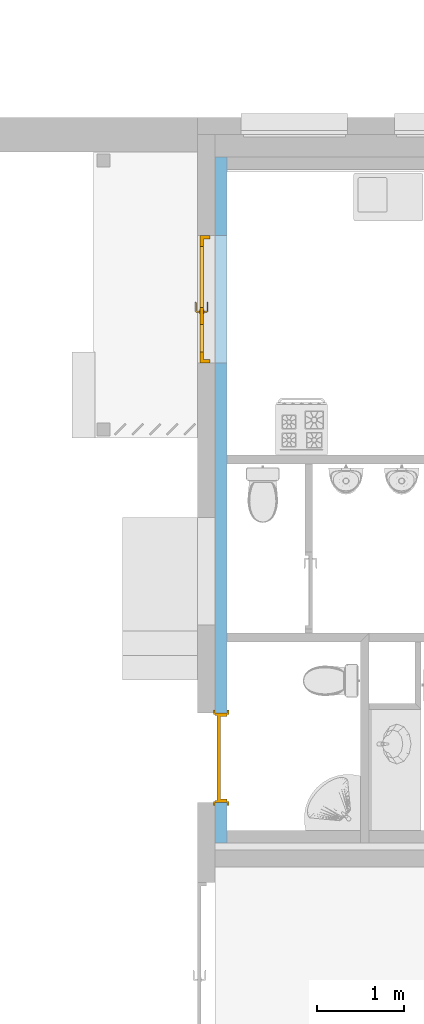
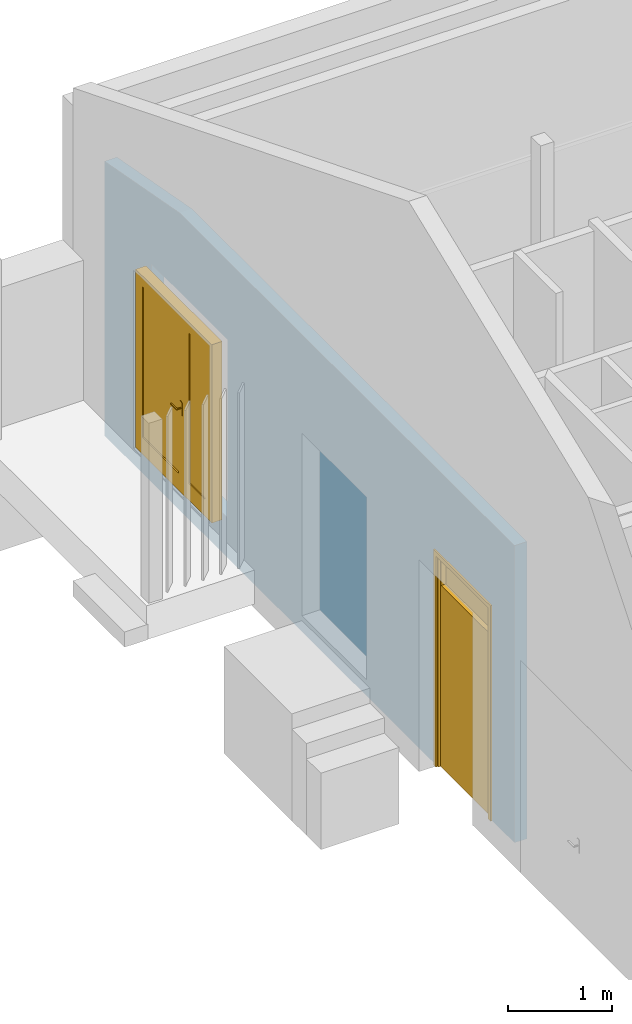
# One storey, part 18 of 34: 2 doors, 2 openings, plus 1 element that does not belong to this part.
"""IFC2X3 building model written with IfcOpenShell, lengths in metres."""

from ifc_helpers import new_model, entity, si_unit, converted_unit, derived_unit, money_unit, direction, frame, origin_with_axes, origin_2d_with_axis, place, context, subcontext, project, spatial, polyline, rectangle, outline, extrude, clip, bounded_halfspace, open_shell, faceted_brep, surface_model, material, layer, layer_set, layer_usage, type_object, element, fill, save


model = new_model("IFC2X3")

# Units and contexts
model_context = context("Model", 3, precision=1e-05, world=origin_with_axes(), true_north=direction((0.0, 1.0)))
body_context = subcontext(model_context, "Body", "Model", "MODEL_VIEW")
ifc_project = project(units=[si_unit("LENGTHUNIT", "METRE"), si_unit("AREAUNIT", "SQUARE_METRE"), si_unit("VOLUMEUNIT", "CUBIC_METRE"), converted_unit("PLANEANGLEUNIT", "DEGREE", entity("IfcPlaneAngleMeasure", 0.0174532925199), si_unit("PLANEANGLEUNIT", "RADIAN"), dimensions=[0, 0, 0, 0, 0, 0, 0]), money_unit("CHF"), converted_unit("TIMEUNIT", "Year", entity("IfcTimeMeasure", 31556926.0), si_unit("TIMEUNIT", "SECOND"), dimensions=[0, 0, 1, 0, 0, 0, 0]), si_unit("MASSUNIT", "GRAM", prefix="KILO"), si_unit("THERMODYNAMICTEMPERATUREUNIT", "DEGREE_CELSIUS"), si_unit("LUMINOUSINTENSITYUNIT", "LUMEN"), si_unit("ENERGYUNIT", "JOULE", prefix="MEGA"), derived_unit("THERMALCONDUCTANCEUNIT", [(si_unit("POWERUNIT", "WATT"), 1), (si_unit("LENGTHUNIT", "METRE"), -1), (si_unit("THERMODYNAMICTEMPERATUREUNIT", "KELVIN"), -1)]), derived_unit("SPECIFICHEATCAPACITYUNIT", [(si_unit("ENERGYUNIT", "JOULE"), 1), (si_unit("MASSUNIT", "GRAM", prefix="KILO"), -1), (si_unit("THERMODYNAMICTEMPERATUREUNIT", "KELVIN"), -1)]), derived_unit("MASSDENSITYUNIT", [(si_unit("MASSUNIT", "GRAM", prefix="KILO"), 1), (si_unit("VOLUMEUNIT", "CUBIC_METRE"), -1)])], contexts=[model_context])

# Site, building, storey
site_placement = place(None, origin_with_axes())
site = spatial("IfcSite", under=ifc_project, at=site_placement, Name="Site", CompositionType="ELEMENT")
building_placement = place(site_placement, origin_with_axes())
building = spatial("IfcBuilding", under=site, at=building_placement, Name="Bâtiment", CompositionType="ELEMENT")
storey_placement = place(building_placement, origin_with_axes())
storey = spatial("IfcBuildingStorey", under=building, at=storey_placement, Name="RDC", CompositionType="ELEMENT", Elevation=-5.32907e-15)

# Wall, openings, doors
ifc_material_1 = material(Name="Isolation laine de pierre 378182646")
ifc_layer_1 = layer(ifc_material_1, 0.12, ventilated="UNKNOWN")
ifc_material_2 = material(Name="Plâtre lissé 291446788")
ifc_layer_2 = layer(ifc_material_2, 0.02, ventilated="UNKNOWN")
ifc_layer_set = layer_set([ifc_layer_1, ifc_layer_2], Name="DOUBLAGE ISO + BA13 14 CM")
ifc_layer_usage = layer_usage(ifc_layer_set, "AXIS2", "NEGATIVE", 0.0)
wall_type = type_object("IfcWallType", Name="DOUBLAGE ISO + BA13 14 CM 140", PredefinedType="NOTDEFINED")
wall_placement = place(storey_placement, frame((1667.61729001, 182.33004191, 0.0), z_axis=(0.0, 0.0, 1.0), x_axis=(0.0, 1.0, 0.0)))
wall = element("IfcWallStandardCase", 1, at=wall_placement, inside=storey, type_object=wall_type, material=ifc_layer_usage, Name="Mur-006", context=body_context, shape_type="Clipping", body=[
    clip(clip(clip(clip(clip(extrude(outline(polyline([(0.0, -0.14), (7.91, -0.14), (7.91, 0.0), (0.0, 0.0), (0.0, -0.14)])), origin_with_axes(), (0.0, 0.0, 1.0), 3.50000008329), bounded_halfspace(frame((0.844439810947, 0.0, 4.54416553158), z_axis=(-0.182701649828, 0.0, -0.983168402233), x_axis=(0.0, 1.0, 0.0)), True, origin_with_axes(), polyline([(6.2499999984, -0.15), (8.8700099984, -0.15), (8.8700099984, 0.01), (6.2499999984, 0.01), (6.2499999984, -0.15)]))), bounded_halfspace(frame((2.37261899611, 0.0, 5.27193227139), z_axis=(-0.410400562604, 0.0, -0.911905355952), x_axis=(0.0, 1.0, 0.0)), True, origin_with_axes(), polyline([(0.49854319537, -0.15), (6.2499999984, -0.15), (6.2499999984, 0.01), (0.49854319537, 0.01), (0.49854319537, -0.15)]))), bounded_halfspace(frame((2.56748715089, 0.0, 5.7049270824), z_axis=(-0.410400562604, 0.0, -0.911905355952), x_axis=(0.0, 1.0, 0.0)), True, origin_with_axes(), polyline([(1.133479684, -0.15), (8.8700099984, -0.15), (8.8700099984, 0.01), (1.133479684, 0.01), (1.133479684, -0.15)]))), bounded_halfspace(frame((-2.18566630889, 0.0, 4.85652553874), z_axis=(0.410400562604, 0.0, -0.911905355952), x_axis=(0.0, 1.0, 0.0)), True, origin_with_axes(), polyline([(-5.45001, -0.15), (1.133479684, -0.15), (1.133479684, 0.01), (-5.45001, 0.01), (-5.45001, -0.15)]))), bounded_halfspace(frame((-2.20468110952, 0.0, 4.89877620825), z_axis=(0.410400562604, 0.0, -0.911905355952), x_axis=(0.0, 1.0, 0.0)), True, origin_with_axes(), polyline([(-5.14001, -0.15), (0.49854319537, -0.15), (0.49854319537, 0.01), (-5.14001, 0.01), (-5.14001, -0.15)]))),
])
opening_1_placement = place(wall_placement, frame((0.980307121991, 0.0, 0.0), z_axis=(0.0, 0.0, 1.0), x_axis=(1.0, 0.0, 0.0)))
opening_1 = element("IfcOpeningElement", 2, at=opening_1_placement, cuts=wall, Name="Por-004", context=body_context, shape_type="SweptSolid", body=[
    extrude(rectangle(XDim=1.03, YDim=2.5, at=origin_2d_with_axis()), frame((0.0, 0.14, 1.25), z_axis=(0.0, -1.0, 0.0), x_axis=(1.0, 0.0, 0.0)), (0.0, 0.0, 1.0), 0.42),
    extrude(rectangle(XDim=1.104, YDim=2.537, at=origin_2d_with_axis()), frame((0.0, 0.0, 1.2685), z_axis=(0.0, -1.0, 0.0), x_axis=(1.0, 0.0, 0.0)), (0.0, 0.0, -1.0), 0.14),
    extrude(rectangle(XDim=1.104, YDim=2.537, at=origin_2d_with_axis()), frame((0.0, -0.14, 1.2685), z_axis=(0.0, 1.0, 0.0), x_axis=(1.0, 0.0, 0.0)), (0.0, 0.0, -1.0), 0.14),
])
opening_2_placement = place(wall_placement, frame((6.27102484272, 0.0, 0.47), z_axis=(0.0, 0.0, 1.0), x_axis=(1.0, 0.0, 0.0)))
opening_2 = element("IfcOpeningElement", 3, at=opening_2_placement, cuts=wall, Name="Por-006", context=body_context, shape_type="SweptSolid", body=[
    extrude(rectangle(XDim=1.47, YDim=2.1, at=origin_2d_with_axis()), frame((0.0, 0.06, 1.05), z_axis=(0.0, 1.0, 0.0), x_axis=(1.0, 0.0, 0.0)), (0.0, 0.0, -1.0), 0.34),
    extrude(rectangle(XDim=1.47, YDim=2.1, at=origin_2d_with_axis()), frame((0.0, 0.06, 1.05), z_axis=(0.0, -1.0, 0.0), x_axis=(1.0, 0.0, 0.0)), (0.0, 0.0, -1.0), 0.2),
])
door_style_1 = type_object("IfcDoorStyle", Name="Porte avec imposte 25", ConstructionType="NOTDEFINED", OperationType="SINGLE_SWING_RIGHT", ParameterTakesPrecedence=False, Sizeable=False)
door_1_placement = place(opening_1_placement, frame((-0.515, 0.0, 0.0), z_axis=(0.0, 0.0, 1.0), x_axis=(1.0, 0.0, 0.0)))
door_1 = element("IfcDoor", 4, at=door_1_placement, inside=storey, type_object=door_style_1, Name="Por-004", OverallHeight=2.5, OverallWidth=1.03, context=body_context, shape_type="SurfaceModel", body=[
    faceted_brep([(0.0, -0.025, 0.0), (0.0, 0.0, 0.0), (0.025, 0.0, 0.0), (0.025, -0.025, 0.0), (0.0, -0.025, 2.5), (0.0, 0.0, 2.5), (0.025, 0.0, 2.475), (0.025, -0.025, 2.475)], [[[0, 1, 2, 3]], [[4, 5, 1, 0]], [[1, 5, 6, 2]], [[3, 2, 6, 7]], [[0, 3, 7, 4]], [[7, 6, 5, 4]]]),
    faceted_brep([(1.03, -0.025, 2.5), (1.03, 0.0, 2.5), (1.005, 0.0, 2.475), (1.005, -0.025, 2.475), (1.03, -0.025, 0.0), (1.03, 0.0, 0.0), (1.005, 0.0, 0.0), (1.005, -0.025, 0.0)], [[[0, 1, 2, 3]], [[4, 5, 1, 0]], [[1, 5, 6, 2]], [[3, 2, 6, 7]], [[0, 3, 7, 4]], [[7, 6, 5, 4]]]),
    faceted_brep([(0.025, -0.025, 2.475), (0.025, 0.0, 2.475), (1.005, 0.0, 2.475), (1.005, -0.025, 2.475), (0.0, -0.025, 2.5), (0.0, 0.0, 2.5), (1.03, 0.0, 2.5), (1.03, -0.025, 2.5)], [[[0, 1, 2, 3]], [[4, 5, 1, 0]], [[1, 5, 6, 2]], [[3, 2, 6, 7]], [[0, 3, 7, 4]], [[7, 6, 5, 4]]]),
    faceted_brep([(-0.037, 0.019, 0.0), (0.013, 0.019, 0.0), (0.013, 0.0, 0.0), (-0.037, 0.0, 0.0), (-0.037, 0.019, 2.537), (0.013, 0.019, 2.487), (0.013, 0.0, 2.487), (-0.037, 0.0, 2.537)], [[[0, 1, 2, 3]], [[0, 4, 5, 1]], [[1, 5, 6, 2]], [[3, 2, 6, 7]], [[4, 0, 3, 7]], [[5, 4, 7, 6]]]),
    faceted_brep([(1.067, 0.019, 2.537), (1.017, 0.019, 2.487), (1.017, 0.0, 2.487), (1.067, 0.0, 2.537), (1.067, 0.019, 0.0), (1.017, 0.019, 0.0), (1.017, 0.0, 0.0), (1.067, 0.0, 0.0)], [[[0, 1, 2, 3]], [[0, 4, 5, 1]], [[1, 5, 6, 2]], [[3, 2, 6, 7]], [[4, 0, 3, 7]], [[5, 4, 7, 6]]]),
    faceted_brep([(-0.037, 0.019, 2.537), (0.013, 0.019, 2.487), (0.013, 0.0, 2.487), (-0.037, 0.0, 2.537), (1.067, 0.019, 2.537), (1.017, 0.019, 2.487), (1.017, 0.0, 2.487), (1.067, 0.0, 2.537)], [[[0, 1, 2, 3]], [[0, 4, 5, 1]], [[1, 5, 6, 2]], [[3, 2, 6, 7]], [[4, 0, 3, 7]], [[5, 4, 7, 6]]]),
    faceted_brep([(-0.037, -0.159, 0.0), (-0.037, -0.14, 0.0), (0.013, -0.14, 0.0), (0.013, -0.159, 0.0), (-0.037, -0.159, 2.537), (-0.037, -0.14, 2.537), (0.013, -0.14, 2.487), (0.013, -0.159, 2.487)], [[[0, 1, 2, 3]], [[4, 5, 1, 0]], [[1, 5, 6, 2]], [[3, 2, 6, 7]], [[0, 3, 7, 4]], [[7, 6, 5, 4]]]),
    faceted_brep([(1.067, -0.159, 2.537), (1.067, -0.14, 2.537), (1.017, -0.14, 2.487), (1.017, -0.159, 2.487), (1.067, -0.159, 0.0), (1.067, -0.14, 0.0), (1.017, -0.14, 0.0), (1.017, -0.159, 0.0)], [[[0, 1, 2, 3]], [[4, 5, 1, 0]], [[1, 5, 6, 2]], [[3, 2, 6, 7]], [[0, 3, 7, 4]], [[7, 6, 5, 4]]]),
    faceted_brep([(-0.037, -0.159, 2.537), (-0.037, -0.14, 2.537), (0.013, -0.14, 2.487), (0.013, -0.159, 2.487), (1.067, -0.159, 2.537), (1.067, -0.14, 2.537), (1.017, -0.14, 2.487), (1.017, -0.159, 2.487)], [[[0, 1, 2, 3]], [[4, 5, 1, 0]], [[1, 5, 6, 2]], [[3, 2, 6, 7]], [[0, 3, 7, 4]], [[7, 6, 5, 4]]]),
    faceted_brep([(0.04, -0.065, 2.112), (0.04, -0.025, 2.112), (0.04, -0.025, 2.14), (0.04, -0.14, 2.14), (0.04, -0.14, 2.1), (0.04, -0.14, 0.0), (0.04, -0.065, 0.0), (0.028, -0.065, 2.112), (0.028, -0.025, 2.112), (0.028, -0.025, 0.0), (0.0, -0.025, 0.0), (0.0, -0.025, 2.46), (0.04, -0.025, 2.46), (0.04, -0.14, 2.46), (0.0, -0.14, 2.46), (0.0, -0.14, 0.0), (0.028, -0.065, 0.0)], [[[0, 1, 2, 3, 4, 5, 6]], [[1, 0, 7, 8]], [[8, 9, 10, 11, 12, 2, 1]], [[12, 13, 3, 2]], [[3, 13, 14, 15, 5, 4]], [[16, 6, 5, 15, 10, 9]], [[0, 6, 16, 7]], [[9, 8, 7, 16]], [[10, 15, 14, 11]], [[11, 14, 13, 12]]]),
    faceted_brep([(1.002, -0.025, 2.112), (0.99, -0.025, 2.112), (0.99, -0.025, 2.14), (0.99, -0.025, 2.46), (1.03, -0.025, 2.46), (1.03, -0.025, 0.0), (1.002, -0.025, 0.0), (1.002, -0.065, 2.112), (0.99, -0.065, 2.112), (0.99, -0.065, 0.0), (0.99, -0.14, 0.0), (0.99, -0.14, 2.1), (0.99, -0.14, 2.14), (0.99, -0.14, 2.46), (1.03, -0.14, 2.46), (1.03, -0.14, 0.0), (1.002, -0.065, 0.0)], [[[0, 1, 2, 3, 4, 5, 6]], [[1, 0, 7, 8]], [[8, 9, 10, 11, 12, 2, 1]], [[2, 12, 13, 3]], [[3, 13, 14, 4]], [[4, 14, 15, 5]], [[16, 6, 5, 15, 10, 9]], [[0, 6, 16, 7]], [[16, 9, 8, 7]], [[12, 11, 10, 15, 14, 13]]]),
    faceted_brep([(0.0, -0.025, 2.5), (0.0, -0.025, 2.46), (0.0, -0.14, 2.46), (0.0, -0.14, 2.5), (1.03, -0.025, 2.5), (1.03, -0.025, 2.46), (0.99, -0.025, 2.46), (0.04, -0.025, 2.46), (0.04, -0.14, 2.46), (0.99, -0.14, 2.46), (1.03, -0.14, 2.46), (1.03, -0.14, 2.5)], [[[0, 1, 2, 3]], [[0, 4, 5, 6, 7, 1]], [[1, 7, 8, 2]], [[3, 2, 8, 9, 10, 11]], [[4, 0, 3, 11]], [[5, 4, 11, 10]], [[6, 5, 10, 9]], [[7, 6, 9, 8]]]),
    faceted_brep([(0.99, -0.065, 2.112), (0.99, -0.025, 2.112), (0.99, -0.025, 2.14), (0.99, -0.14, 2.14), (0.99, -0.14, 2.1), (0.99, -0.065, 2.1), (0.04, -0.065, 2.112), (0.04, -0.025, 2.112), (0.04, -0.025, 2.14), (0.04, -0.14, 2.14), (0.04, -0.14, 2.1), (0.04, -0.065, 2.1)], [[[0, 1, 2, 3, 4, 5]], [[1, 0, 6, 7]], [[1, 7, 8, 2]], [[8, 9, 3, 2]], [[10, 4, 3, 9]], [[11, 5, 4, 10]], [[0, 5, 11, 6]], [[6, 11, 10, 9, 8, 7]]]),
    faceted_brep([(1.002, -0.025, 0.0), (1.002, -0.065, 0.0), (0.028, -0.065, 0.0), (0.028, -0.025, 0.0), (1.002, -0.025, 2.112), (1.002, -0.065, 2.112), (0.028, -0.065, 2.112), (0.028, -0.025, 2.112)], [[[0, 1, 2, 3]], [[4, 5, 1, 0]], [[1, 5, 6, 2]], [[3, 2, 6, 7]], [[0, 3, 7, 4]], [[7, 6, 5, 4]]]),
    surface_model("IfcShellBasedSurfaceModel", [(0.04, -0.0765, 2.14), (0.04, -0.0765, 2.46), (0.99, -0.0765, 2.46), (0.99, -0.0765, 2.14)], [open_shell([[[0, 1, 2, 3]]])]),
    surface_model("IfcShellBasedSurfaceModel", [(0.04, -0.0885, 2.14), (0.99, -0.0885, 2.14), (0.99, -0.0885, 2.46), (0.04, -0.0885, 2.46)], [open_shell([[[0, 1, 2, 3]]])]),
])
fill(opening_1, door_1)
door_style_2 = type_object("IfcDoorStyle", Name="Porte double asymétrique 25", ConstructionType="NOTDEFINED", OperationType="DOUBLE_DOOR_SINGLE_SWING", ParameterTakesPrecedence=False, Sizeable=False)
door_2_placement = place(opening_2_placement, frame((-0.735, 0.0, 0.0), z_axis=(0.0, 0.0, 1.0), x_axis=(1.0, 0.0, 0.0)))
door_2 = element("IfcDoor", 5, at=door_2_placement, inside=storey, type_object=door_style_2, Name="Por-006", OverallHeight=2.1, OverallWidth=1.47, context=body_context, shape_type="SurfaceModel", body=[
    faceted_brep([(0.04, 0.135, 0.0), (0.04, 0.135, 2.06), (0.04, 0.06, 2.06), (0.04, 0.06, 0.0), (0.028, 0.135, 2.06), (0.028, 0.135, 0.0), (0.028, 0.175, 2.06), (0.0, 0.175, 2.06), (0.0, 0.06, 2.06), (0.0, 0.06, 0.0), (0.0, 0.175, 0.0), (0.028, 0.175, 0.0)], [[[0, 1, 2, 3]], [[4, 1, 0, 5]], [[4, 6, 7, 8, 2, 1]], [[3, 2, 8, 9]], [[5, 0, 3, 9, 10, 11]], [[6, 4, 5, 11]], [[6, 11, 10, 7]], [[10, 9, 8, 7]]]),
    faceted_brep([(1.442, 0.135, 2.06), (1.43, 0.135, 2.06), (1.43, 0.06, 2.06), (1.47, 0.06, 2.06), (1.47, 0.175, 2.06), (1.442, 0.175, 2.06), (1.442, 0.135, 0.0), (1.43, 0.135, 0.0), (1.43, 0.06, 0.0), (1.47, 0.06, 0.0), (1.47, 0.175, 0.0), (1.442, 0.175, 0.0)], [[[0, 1, 2, 3, 4, 5]], [[1, 0, 6, 7]], [[1, 7, 8, 2]], [[3, 2, 8, 9]], [[4, 3, 9, 10]], [[11, 5, 4, 10]], [[0, 5, 11, 6]], [[6, 11, 10, 9, 8, 7]]]),
    faceted_brep([(0.028, 0.175, 2.072), (0.028, 0.175, 2.06), (0.0, 0.175, 2.06), (0.0, 0.175, 2.1), (1.47, 0.175, 2.1), (1.47, 0.175, 2.06), (1.442, 0.175, 2.06), (1.442, 0.175, 2.072), (0.028, 0.135, 2.072), (0.028, 0.135, 2.06), (0.04, 0.135, 2.06), (0.04, 0.06, 2.06), (0.0, 0.06, 2.06), (0.0, 0.06, 2.1), (1.47, 0.06, 2.1), (1.47, 0.06, 2.06), (1.442, 0.135, 2.06), (1.43, 0.06, 2.06), (1.43, 0.135, 2.06), (1.442, 0.135, 2.072)], [[[0, 1, 2, 3, 4, 5, 6, 7]], [[1, 0, 8, 9]], [[9, 10, 11, 12, 2, 1]], [[2, 12, 13, 3]], [[3, 13, 14, 4]], [[4, 14, 15, 5]], [[16, 6, 5, 15, 17, 18]], [[7, 6, 16, 19]], [[0, 7, 19, 8]], [[16, 18, 10, 9, 8, 19]], [[10, 18, 17, 11]], [[17, 15, 14, 13, 12, 11]]]),
    faceted_brep([(0.567, 0.135, 0.93), (0.568903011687, 0.135, 0.920432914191), (0.568903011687, 0.13, 0.920432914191), (0.567, 0.13, 0.93), (0.567, 0.135, 1.055), (0.568903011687, 0.135, 1.06456708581), (0.57432233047, 0.135, 1.07267766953), (0.582432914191, 0.135, 1.07809698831), (0.592, 0.135, 1.08), (0.601567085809, 0.135, 1.07809698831), (0.60967766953, 0.135, 1.07267766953), (0.615096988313, 0.135, 1.06456708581), (0.617, 0.135, 1.055), (0.617, 0.135, 0.93), (0.615096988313, 0.135, 0.920432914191), (0.60967766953, 0.135, 0.91232233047), (0.601567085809, 0.135, 0.906903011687), (0.592, 0.135, 0.905), (0.582432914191, 0.135, 0.906903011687), (0.57432233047, 0.135, 0.91232233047), (0.57432233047, 0.13, 0.91232233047), (0.582432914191, 0.13, 0.906903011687), (0.592, 0.13, 0.905), (0.601567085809, 0.13, 0.906903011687), (0.60967766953, 0.13, 0.91232233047), (0.615096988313, 0.13, 0.920432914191), (0.617, 0.13, 0.93), (0.617, 0.13, 1.055), (0.615096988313, 0.13, 1.06456708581), (0.60967766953, 0.13, 1.07267766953), (0.601567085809, 0.13, 1.07809698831), (0.592, 0.13, 1.08), (0.582432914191, 0.13, 1.07809698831), (0.57432233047, 0.13, 1.07267766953), (0.568903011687, 0.13, 1.06456708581), (0.567, 0.13, 1.055)], [[[0, 1, 2, 3]], [[0, 4, 5, 6, 7, 8, 9, 10, 11, 12, 13, 14, 15, 16, 17, 18, 19, 1]], [[1, 19, 20, 2]], [[3, 2, 20, 21, 22, 23, 24, 25, 26, 27, 28, 29, 30, 31, 32, 33, 34, 35]], [[4, 0, 3, 35]], [[5, 4, 35, 34]], [[6, 5, 34, 33]], [[7, 6, 33, 32]], [[8, 7, 32, 31]], [[9, 8, 31, 30]], [[10, 9, 30, 29]], [[11, 10, 29, 28]], [[12, 11, 28, 27]], [[13, 12, 27, 26]], [[14, 13, 26, 25]], [[15, 14, 25, 24]], [[16, 15, 24, 23]], [[17, 16, 23, 22]], [[18, 17, 22, 21]], [[19, 18, 21, 20]]]),
    faceted_brep([(0.5995, 0.13, 1.005), (0.5995, 0.1, 1.005), (0.5995, 0.1, 0.995), (0.5995, 0.13, 0.995), (0.5845, 0.13, 1.005), (0.5845, 0.093, 1.005), (0.585489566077, 0.0880251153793, 1.005), (0.588307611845, 0.0838076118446, 1.005), (0.592525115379, 0.0809895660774, 1.005), (0.5975, 0.08, 1.005), (0.7045, 0.08, 1.005), (0.7045, 0.082, 1.005), (0.703510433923, 0.0869748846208, 1.005), (0.700692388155, 0.0911923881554, 1.005), (0.696474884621, 0.0940104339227, 1.005), (0.6915, 0.095, 1.005), (0.6045, 0.095, 1.005), (0.602586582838, 0.0953806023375, 1.005), (0.600964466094, 0.0964644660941, 1.005), (0.599880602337, 0.0980865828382, 1.005), (0.599880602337, 0.0980865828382, 0.995), (0.600964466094, 0.0964644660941, 0.995), (0.602586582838, 0.0953806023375, 0.995), (0.6045, 0.095, 0.995), (0.6915, 0.095, 0.995), (0.696474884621, 0.0940104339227, 0.995), (0.700692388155, 0.0911923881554, 0.995), (0.703510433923, 0.0869748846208, 0.995), (0.7045, 0.082, 0.995), (0.7045, 0.08, 0.995), (0.5975, 0.08, 0.995), (0.592525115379, 0.0809895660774, 0.995), (0.588307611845, 0.0838076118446, 0.995), (0.585489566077, 0.0880251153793, 0.995), (0.5845, 0.093, 0.995), (0.5845, 0.13, 0.995)], [[[0, 1, 2, 3]], [[0, 4, 5, 6, 7, 8, 9, 10, 11, 12, 13, 14, 15, 16, 17, 18, 19, 1]], [[1, 19, 20, 2]], [[3, 2, 20, 21, 22, 23, 24, 25, 26, 27, 28, 29, 30, 31, 32, 33, 34, 35]], [[4, 0, 3, 35]], [[5, 4, 35, 34]], [[6, 5, 34, 33]], [[7, 6, 33, 32]], [[8, 7, 32, 31]], [[9, 8, 31, 30]], [[10, 9, 30, 29]], [[11, 10, 29, 28]], [[12, 11, 28, 27]], [[13, 12, 27, 26]], [[14, 13, 26, 25]], [[15, 14, 25, 24]], [[16, 15, 24, 23]], [[17, 16, 23, 22]], [[18, 17, 22, 21]], [[19, 18, 21, 20]]]),
    faceted_brep([(0.567, 0.175, 0.93), (0.567, 0.18, 0.93), (0.568903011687, 0.18, 0.920432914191), (0.568903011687, 0.175, 0.920432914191), (0.567, 0.175, 1.055), (0.567, 0.18, 1.055), (0.568903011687, 0.18, 1.06456708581), (0.57432233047, 0.18, 1.07267766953), (0.582432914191, 0.18, 1.07809698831), (0.592, 0.18, 1.08), (0.601567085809, 0.18, 1.07809698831), (0.60967766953, 0.18, 1.07267766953), (0.615096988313, 0.18, 1.06456708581), (0.617, 0.18, 1.055), (0.617, 0.18, 0.93), (0.615096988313, 0.18, 0.920432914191), (0.60967766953, 0.18, 0.91232233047), (0.601567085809, 0.18, 0.906903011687), (0.592, 0.18, 0.905), (0.582432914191, 0.18, 0.906903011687), (0.57432233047, 0.18, 0.91232233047), (0.57432233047, 0.175, 0.91232233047), (0.582432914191, 0.175, 0.906903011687), (0.592, 0.175, 0.905), (0.601567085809, 0.175, 0.906903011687), (0.60967766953, 0.175, 0.91232233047), (0.615096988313, 0.175, 0.920432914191), (0.617, 0.175, 0.93), (0.617, 0.175, 1.055), (0.615096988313, 0.175, 1.06456708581), (0.60967766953, 0.175, 1.07267766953), (0.601567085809, 0.175, 1.07809698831), (0.592, 0.175, 1.08), (0.582432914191, 0.175, 1.07809698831), (0.57432233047, 0.175, 1.07267766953), (0.568903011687, 0.175, 1.06456708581)], [[[0, 1, 2, 3]], [[4, 5, 1, 0]], [[1, 5, 6, 7, 8, 9, 10, 11, 12, 13, 14, 15, 16, 17, 18, 19, 20, 2]], [[3, 2, 20, 21]], [[0, 3, 21, 22, 23, 24, 25, 26, 27, 28, 29, 30, 31, 32, 33, 34, 35, 4]], [[35, 6, 5, 4]], [[34, 7, 6, 35]], [[33, 8, 7, 34]], [[32, 9, 8, 33]], [[31, 10, 9, 32]], [[30, 11, 10, 31]], [[29, 12, 11, 30]], [[28, 13, 12, 29]], [[27, 14, 13, 28]], [[26, 15, 14, 27]], [[25, 16, 15, 26]], [[24, 17, 16, 25]], [[23, 18, 17, 24]], [[22, 19, 18, 23]], [[21, 20, 19, 22]]]),
    faceted_brep([(0.5995, 0.18, 1.005), (0.5995, 0.18, 0.995), (0.5995, 0.21, 0.995), (0.5995, 0.21, 1.005), (0.5845, 0.18, 1.005), (0.5845, 0.18, 0.995), (0.5845, 0.217, 0.995), (0.585489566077, 0.221974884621, 0.995), (0.588307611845, 0.226192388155, 0.995), (0.592525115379, 0.229010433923, 0.995), (0.5975, 0.23, 0.995), (0.7045, 0.23, 0.995), (0.7045, 0.228, 0.995), (0.703510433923, 0.223025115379, 0.995), (0.700692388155, 0.218807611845, 0.995), (0.696474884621, 0.215989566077, 0.995), (0.6915, 0.215, 0.995), (0.6045, 0.215, 0.995), (0.602586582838, 0.214619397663, 0.995), (0.600964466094, 0.213535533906, 0.995), (0.599880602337, 0.211913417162, 0.995), (0.599880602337, 0.211913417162, 1.005), (0.600964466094, 0.213535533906, 1.005), (0.602586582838, 0.214619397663, 1.005), (0.6045, 0.215, 1.005), (0.6915, 0.215, 1.005), (0.696474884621, 0.215989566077, 1.005), (0.700692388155, 0.218807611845, 1.005), (0.703510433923, 0.223025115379, 1.005), (0.7045, 0.228, 1.005), (0.7045, 0.23, 1.005), (0.5975, 0.23, 1.005), (0.592525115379, 0.229010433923, 1.005), (0.588307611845, 0.226192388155, 1.005), (0.585489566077, 0.221974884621, 1.005), (0.5845, 0.217, 1.005)], [[[0, 1, 2, 3]], [[4, 5, 1, 0]], [[1, 5, 6, 7, 8, 9, 10, 11, 12, 13, 14, 15, 16, 17, 18, 19, 20, 2]], [[3, 2, 20, 21]], [[0, 3, 21, 22, 23, 24, 25, 26, 27, 28, 29, 30, 31, 32, 33, 34, 35, 4]], [[35, 6, 5, 4]], [[34, 7, 6, 35]], [[33, 8, 7, 34]], [[32, 9, 8, 33]], [[31, 10, 9, 32]], [[30, 11, 10, 31]], [[29, 12, 11, 30]], [[28, 13, 12, 29]], [[27, 14, 13, 28]], [[26, 15, 14, 27]], [[25, 16, 15, 26]], [[24, 17, 16, 25]], [[23, 18, 17, 24]], [[22, 19, 18, 23]], [[21, 20, 19, 22]]]),
    faceted_brep([(1.442, 0.175, 0.2), (1.442, 0.135, 0.2), (1.342, 0.135, 0.2), (1.342, 0.175, 0.2), (1.442, 0.175, 1.972), (1.442, 0.135, 1.972), (1.342, 0.135, 1.972), (1.342, 0.175, 1.972)], [[[0, 1, 2, 3]], [[4, 5, 1, 0]], [[1, 5, 6, 2]], [[3, 2, 6, 7]], [[0, 3, 7, 4]], [[7, 6, 5, 4]]]),
    faceted_brep([(0.542, 0.175, 0.2), (0.542, 0.135, 0.2), (0.542, 0.135, 1.972), (0.542, 0.175, 1.972), (0.642, 0.175, 0.2), (0.642, 0.135, 0.2), (0.642, 0.135, 1.972), (0.642, 0.175, 1.972)], [[[0, 1, 2, 3]], [[4, 5, 1, 0]], [[1, 5, 6, 2]], [[3, 2, 6, 7]], [[0, 3, 7, 4]], [[7, 6, 5, 4]]]),
    faceted_brep([(1.442, 0.175, 0.0), (1.442, 0.135, 0.0), (0.542, 0.135, 0.0), (0.542, 0.175, 0.0), (1.442, 0.175, 0.2), (1.442, 0.135, 0.2), (1.342, 0.135, 0.2), (0.642, 0.135, 0.2), (0.542, 0.135, 0.2), (0.542, 0.175, 0.2), (0.642, 0.175, 0.2), (1.342, 0.175, 0.2)], [[[0, 1, 2, 3]], [[4, 5, 1, 0]], [[1, 5, 6, 7, 8, 2]], [[3, 2, 8, 9]], [[0, 3, 9, 10, 11, 4]], [[11, 6, 5, 4]], [[10, 7, 6, 11]], [[9, 8, 7, 10]]]),
    faceted_brep([(1.442, 0.175, 2.072), (1.442, 0.135, 2.072), (1.442, 0.135, 1.972), (1.442, 0.175, 1.972), (0.542, 0.175, 2.072), (0.542, 0.135, 2.072), (0.542, 0.135, 1.972), (0.642, 0.135, 1.972), (1.342, 0.135, 1.972), (1.342, 0.175, 1.972), (0.642, 0.175, 1.972), (0.542, 0.175, 1.972)], [[[0, 1, 2, 3]], [[4, 5, 1, 0]], [[1, 5, 6, 7, 8, 2]], [[3, 2, 8, 9]], [[0, 3, 9, 10, 11, 4]], [[11, 6, 5, 4]], [[10, 7, 6, 11]], [[9, 8, 7, 10]]]),
    surface_model("IfcShellBasedSurfaceModel", [(1.342, 0.161, 0.2), (0.642, 0.161, 0.2), (0.642, 0.161, 1.972), (1.342, 0.161, 1.972)], [open_shell([[[0, 1, 2, 3]]])]),
    surface_model("IfcShellBasedSurfaceModel", [(1.342, 0.149, 0.2), (1.342, 0.149, 1.972), (0.642, 0.149, 1.972), (0.642, 0.149, 0.2)], [open_shell([[[0, 1, 2, 3]]])]),
    faceted_brep([(0.028, 0.175, 0.2), (0.128, 0.175, 0.2), (0.128, 0.135, 0.2), (0.028, 0.135, 0.2), (0.028, 0.175, 1.972), (0.128, 0.175, 1.972), (0.128, 0.135, 1.972), (0.028, 0.135, 1.972)], [[[0, 1, 2, 3]], [[0, 4, 5, 1]], [[1, 5, 6, 2]], [[3, 2, 6, 7]], [[4, 0, 3, 7]], [[5, 4, 7, 6]]]),
    faceted_brep([(0.542, 0.175, 0.2), (0.542, 0.175, 1.972), (0.542, 0.135, 1.972), (0.542, 0.135, 0.2), (0.442, 0.175, 0.2), (0.442, 0.175, 1.972), (0.442, 0.135, 1.972), (0.442, 0.135, 0.2)], [[[0, 1, 2, 3]], [[0, 4, 5, 1]], [[1, 5, 6, 2]], [[3, 2, 6, 7]], [[4, 0, 3, 7]], [[5, 4, 7, 6]]]),
    faceted_brep([(0.028, 0.175, 0.0), (0.542, 0.175, 0.0), (0.542, 0.135, 0.0), (0.028, 0.135, 0.0), (0.028, 0.175, 0.2), (0.128, 0.175, 0.2), (0.442, 0.175, 0.2), (0.542, 0.175, 0.2), (0.542, 0.135, 0.2), (0.442, 0.135, 0.2), (0.128, 0.135, 0.2), (0.028, 0.135, 0.2)], [[[0, 1, 2, 3]], [[0, 4, 5, 6, 7, 1]], [[1, 7, 8, 2]], [[3, 2, 8, 9, 10, 11]], [[4, 0, 3, 11]], [[5, 4, 11, 10]], [[6, 5, 10, 9]], [[7, 6, 9, 8]]]),
    faceted_brep([(0.028, 0.175, 2.072), (0.028, 0.175, 1.972), (0.028, 0.135, 1.972), (0.028, 0.135, 2.072), (0.542, 0.175, 2.072), (0.542, 0.175, 1.972), (0.442, 0.175, 1.972), (0.128, 0.175, 1.972), (0.128, 0.135, 1.972), (0.442, 0.135, 1.972), (0.542, 0.135, 1.972), (0.542, 0.135, 2.072)], [[[0, 1, 2, 3]], [[0, 4, 5, 6, 7, 1]], [[1, 7, 8, 2]], [[3, 2, 8, 9, 10, 11]], [[4, 0, 3, 11]], [[5, 4, 11, 10]], [[6, 5, 10, 9]], [[7, 6, 9, 8]]]),
    surface_model("IfcShellBasedSurfaceModel", [(0.128, 0.161, 0.2), (0.128, 0.161, 1.972), (0.442, 0.161, 1.972), (0.442, 0.161, 0.2)], [open_shell([[[0, 1, 2, 3]]])]),
    surface_model("IfcShellBasedSurfaceModel", [(0.128, 0.149, 0.2), (0.442, 0.149, 0.2), (0.442, 0.149, 1.972), (0.128, 0.149, 1.972)], [open_shell([[[0, 1, 2, 3]]])]),
])
fill(opening_2, door_2)

save(model, "model.ifc")
